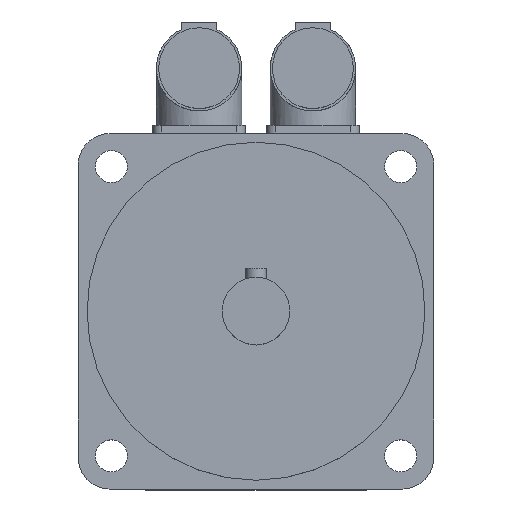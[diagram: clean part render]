
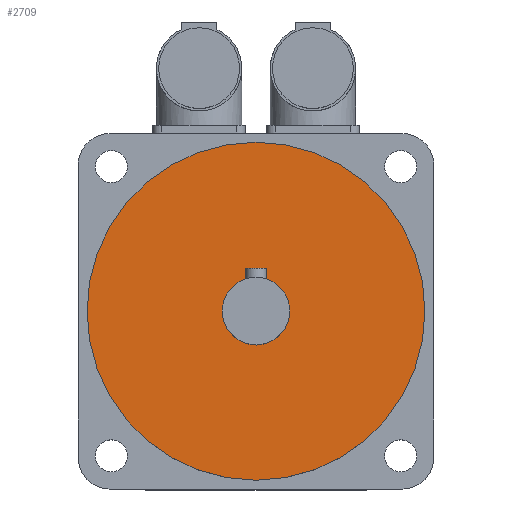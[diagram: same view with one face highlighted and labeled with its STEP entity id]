
A CAD part, top view. The second image highlights one B-rep face of the part: STEP entity #2709.
In plain terms, the highlighted planar face has unit normal (0, 0, 1).
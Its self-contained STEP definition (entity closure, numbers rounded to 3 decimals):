
#44=FACE_BOUND('',#455,.T.);
#72=CIRCLE('',#2874,9.5);
#73=CIRCLE('',#2877,47.5);
#289=FACE_OUTER_BOUND('',#454,.T.);
#454=EDGE_LOOP('',(#1842));
#455=EDGE_LOOP('',(#1843));
#1150=VERTEX_POINT('',#4096);
#1151=VERTEX_POINT('',#4100);
#1420=EDGE_CURVE('',#1150,#1150,#72,.T.);
#1421=EDGE_CURVE('',#1151,#1151,#73,.T.);
#1842=ORIENTED_EDGE('',*,*,#1421,.T.);
#1843=ORIENTED_EDGE('',*,*,#1420,.T.);
#2629=PLANE('',#2879);
#2709=ADVANCED_FACE('',(#289,#44),#2629,.F.);
#2874=AXIS2_PLACEMENT_3D('',#4097,#3197,#3198);
#2877=AXIS2_PLACEMENT_3D('',#4101,#3203,#3204);
#2879=AXIS2_PLACEMENT_3D('',#4104,#3207,#3208);
#3197=DIRECTION('center_axis',(0.,0.,-1.));
#3198=DIRECTION('ref_axis',(-1.,0.,0.));
#3203=DIRECTION('center_axis',(0.,0.,
1.));
#3204=DIRECTION('ref_axis',(-1.,0.,0.));
#3207=DIRECTION('center_axis',(0.,0.,-1.));
#3208=DIRECTION('ref_axis',(-1.,0.,0.));
#4096=CARTESIAN_POINT('',(9.5,0.,130.));
#4097=CARTESIAN_POINT('Origin',(0.,0.,
130.));
#4100=CARTESIAN_POINT('',(47.5,0.,130.));
#4101=CARTESIAN_POINT('Origin',(0.,0.,
130.));
#4104=CARTESIAN_POINT('Origin',(0.,0.,
130.));
